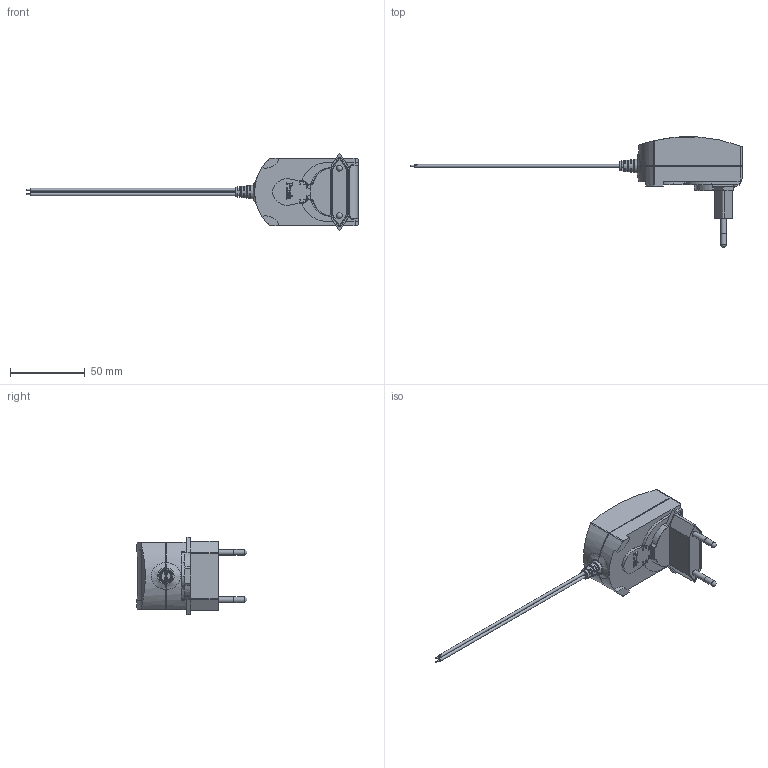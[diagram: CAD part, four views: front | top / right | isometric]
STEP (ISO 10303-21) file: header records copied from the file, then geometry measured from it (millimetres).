
FILE_DESCRIPTION (( 'STEP AP214' ), '1' );
FILE_NAME ('EUR.STEP', '2016-01-04T19:57:13', ( 'Daryl' ), ( 'Microsoft' ), 'SwSTEP 2.0', 'SolidWorks 2014', '' );
FILE_SCHEMA (( 'AUTOMOTIVE_DESIGN' ));
Length unit declared in the file: millimetre
Products named in the file (1): EUR
Bounding box: 222.1 x 73.77 x 51.7 mm (x, y, z)
Surface area: 20818.8 mm2 (no closed solid volume)
Topology: 0 solids, 43 shells, 489 faces, 2604 edges, 2128 vertices
Faces by surface type: plane 224, bspline 191, cylinder 65, torus 6, sphere 2, cone 1
Full cylindrical faces by diameter (mm): 1 x2, 1.9 x2, 3.75 x4
Entity records: 37854 total; most frequent: CARTESIAN_POINT 16198, ORIENTED_EDGE 3365, EDGE_CURVE 2579, VERTEX_POINT 2119, DIRECTION 1908, B_SPLINE_CURVE_WITH_KNOTS 1454, LINE 930, VECTOR 930
